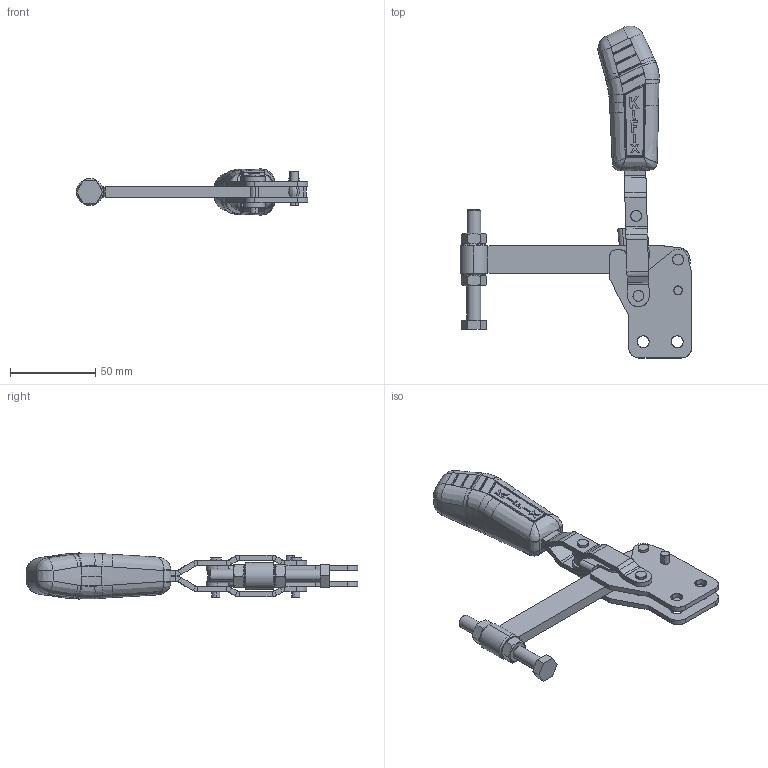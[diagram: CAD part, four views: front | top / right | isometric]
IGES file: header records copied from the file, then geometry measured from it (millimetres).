
Start section: SolidWorks IGES file using analytic representation for surfaces
Global section: file name: C:\Projetos\Grampos\KF-018\KF-018 RS\KF-018 RS.IGS; native system: SolidWorks 2013; preprocessor: SolidWorks 2013; author: Ricardo; date: 140728.154852; units: millimetre
Bounding box: 135.88 x 194.91 x 27.02 mm (x, y, z)
Surface area: 46397.2 mm2 (no closed solid volume)
Topology: 0 solids, 0 shells, 681 faces, 7343 edges, 7330 vertices
Faces by surface type: bspline 432, revolution 249
